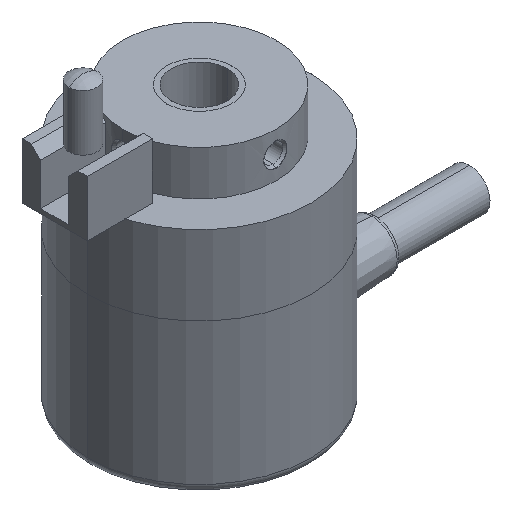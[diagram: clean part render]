
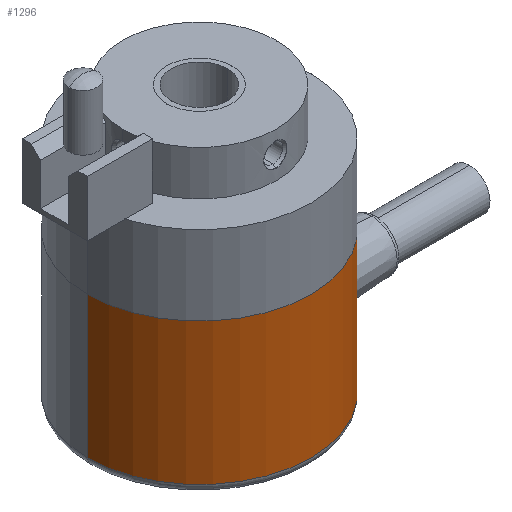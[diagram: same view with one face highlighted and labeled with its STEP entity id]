
A CAD part, isometric view. The second image highlights one B-rep face of the part: STEP entity #1296.
In plain terms, the highlighted cylindrical face has radius 12 mm (diameter 24 mm), a partial arc.
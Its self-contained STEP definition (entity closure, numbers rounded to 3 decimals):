
#12 = DIRECTION ( 'NONE',  ( 0., 0., -1. ) ) ;
#61 = DIRECTION ( 'NONE',  ( 0., 0., 1. ) ) ;
#145 = CARTESIAN_POINT ( 'NONE',  ( 11.895, -1.601, 2.267 ) ) ;
#154 = CARTESIAN_POINT ( 'NONE',  ( 11.455, -3.576, 5.975 ) ) ;
#166 = CARTESIAN_POINT ( 'NONE',  ( 11.993, -0.475, 9.076 ) ) ;
#309 = EDGE_CURVE ( 'NONE', #833, #1049, #478, .T. ) ;
#382 = CARTESIAN_POINT ( 'NONE',  ( 11.799, -2.198, 2.639 ) ) ;
#385 = CARTESIAN_POINT ( 'NONE',  ( 11.504, -3.415, 6.663 ) ) ;
#396 = CARTESIAN_POINT ( 'NONE',  ( 12., 0., 9.1 ) ) ;
#478 = CIRCLE ( 'NONE', #2601, 12. ) ;
#490 = EDGE_CURVE ( 'NONE', #833, #1573, #1691, .T. ) ;
#538 = CARTESIAN_POINT ( 'NONE',  ( 0., 0., 16.2 ) ) ;
#542 = EDGE_LOOP ( 'NONE', ( #2427, #1521, #1414, #2187, #2816, #1769 ) ) ;
#570 = VECTOR ( 'NONE', #2099, 1000. ) ;
#610 = CARTESIAN_POINT ( 'NONE',  ( 11.691, -2.712, 3.12 ) ) ;
#621 = CARTESIAN_POINT ( 'NONE',  ( 11.588, -3.121, 7.309 ) ) ;
#661 = CARTESIAN_POINT ( 'NONE',  ( 12., 0., 16.2 ) ) ;
#781 = DIRECTION ( 'NONE',  ( 1., 0., 0. ) ) ;
#791 = EDGE_CURVE ( 'NONE', #1049, #1472, #1425, .T. ) ;
#833 = VERTEX_POINT ( 'NONE', #2524 ) ;
#847 = CARTESIAN_POINT ( 'NONE',  ( 12., 0., 1.9 ) ) ;
#854 = CARTESIAN_POINT ( 'NONE',  ( 11.587, -3.123, 3.694 ) ) ;
#856 = VECTOR ( 'NONE', #2700, 1000. ) ;
#861 = CARTESIAN_POINT ( 'NONE',  ( 11.691, -2.711, 7.88 ) ) ;
#998 = FACE_OUTER_BOUND ( 'NONE', #542, .T. ) ;
#1049 = VERTEX_POINT ( 'NONE', #2448 ) ;
#1063 = CARTESIAN_POINT ( 'NONE',  ( 12., -0.239, 1.9 ) ) ;
#1073 = CARTESIAN_POINT ( 'NONE',  ( 11.505, -3.414, 4.334 ) ) ;
#1081 = CARTESIAN_POINT ( 'NONE',  ( 11.799, -2.198, 8.361 ) ) ;
#1163 = VECTOR ( 'NONE', #2635, 1000. ) ;
#1291 = CARTESIAN_POINT ( 'NONE',  ( 11.993, -0.474, 1.924 ) ) ;
#1296 = ADVANCED_FACE ( 'NONE', ( #998 ), #1858, .T. ) ;
#1297 = CARTESIAN_POINT ( 'NONE',  ( 11.455, -3.577, 5.027 ) ) ;
#1309 = CARTESIAN_POINT ( 'NONE',  ( 11.895, -1.598, 8.734 ) ) ;
#1414 = ORIENTED_EDGE ( 'NONE', *, *, #490, .T. ) ;
#1425 = LINE ( 'NONE', #661, #1163 ) ;
#1432 = CARTESIAN_POINT ( 'NONE',  ( 0., 0., 1. ) ) ;
#1472 = VERTEX_POINT ( 'NONE', #1751 ) ;
#1500 = CARTESIAN_POINT ( 'NONE',  ( 12., 0., 1. ) ) ;
#1508 = CARTESIAN_POINT ( 'NONE',  ( 11.945, -1.166, 2.086 ) ) ;
#1518 = CARTESIAN_POINT ( 'NONE',  ( 11.447, -3.6, 5.735 ) ) ;
#1521 = ORIENTED_EDGE ( 'NONE', *, *, #309, .F. ) ;
#1524 = CARTESIAN_POINT ( 'NONE',  ( 11.965, -0.94, 8.983 ) ) ;
#1573 = VERTEX_POINT ( 'NONE', #1665 ) ;
#1581 = CARTESIAN_POINT ( 'NONE',  ( -12., 0., 16.2 ) ) ;
#1590 = CARTESIAN_POINT ( 'NONE',  ( 12., 0., 1.9 ) ) ;
#1609 = LINE ( 'NONE', #1779, #856 ) ;
#1644 = DIRECTION ( 'NONE',  ( 1., 0., 0. ) ) ;
#1665 = CARTESIAN_POINT ( 'NONE',  ( -12., 0., 1. ) ) ;
#1691 = LINE ( 'NONE', #1581, #570 ) ;
#1729 = CARTESIAN_POINT ( 'NONE',  ( 11.865, -1.808, 2.378 ) ) ;
#1736 = CARTESIAN_POINT ( 'NONE',  ( 11.483, -3.484, 6.438 ) ) ;
#1747 = CARTESIAN_POINT ( 'NONE',  ( 12., -0.236, 9.1 ) ) ;
#1751 = CARTESIAN_POINT ( 'NONE',  ( 12., 0., 9.1 ) ) ;
#1769 = ORIENTED_EDGE ( 'NONE', *, *, #2770, .T. ) ;
#1779 = CARTESIAN_POINT ( 'NONE',  ( 12., 0., 16.2 ) ) ;
#1786 = VERTEX_POINT ( 'NONE', #1590 ) ;
#1795 = VERTEX_POINT ( 'NONE', #1500 ) ;
#1840 = B_SPLINE_CURVE_WITH_KNOTS ( 'NONE', 3,
 ( #847, #1063, #1291, #2888, #1508, #145, #1729, #382, #1950, #610, #2181, #854, #2422, #1073, #2650, #1297, #2892, #1518, #154, #1736, #385, #1962, #621, #2190, #861, #2433, #1081, #2657, #1309, #2900, #1524, #166, #1747, #396 ),
 .UNSPECIFIED., .F., .F.,
 ( 4, 2, 2, 2, 2, 2, 2, 2, 2, 2, 2, 2, 2, 2, 2, 2, 4 ),
 ( 0., 0.001, 0.001, 0.002, 0.003, 0.004, 0.004, 0.005, 0.006, 0.006, 0.007, 0.008, 0.008, 0.009, 0.01, 0.011, 0.011 ),
 .UNSPECIFIED. ) ;
#1858 = CYLINDRICAL_SURFACE ( 'NONE', #2066, 12. ) ;
#1931 = CIRCLE ( 'NONE', #2104, 12. ) ;
#1950 = CARTESIAN_POINT ( 'NONE',  ( 11.763, -2.382, 2.79 ) ) ;
#1962 = CARTESIAN_POINT ( 'NONE',  ( 11.557, -3.233, 7.1 ) ) ;
#2066 = AXIS2_PLACEMENT_3D ( 'NONE', #2729, #12, #2273 ) ;
#2099 = DIRECTION ( 'NONE',  ( 0., 0., -1. ) ) ;
#2104 = AXIS2_PLACEMENT_3D ( 'NONE', #1432, #61, #1644 ) ;
#2112 = DIRECTION ( 'NONE',  ( 0., 0., 1. ) ) ;
#2181 = CARTESIAN_POINT ( 'NONE',  ( 11.655, -2.86, 3.301 ) ) ;
#2187 = ORIENTED_EDGE ( 'NONE', *, *, #2253, .T. ) ;
#2190 = CARTESIAN_POINT ( 'NONE',  ( 11.655, -2.861, 7.697 ) ) ;
#2253 = EDGE_CURVE ( 'NONE', #1573, #1795, #1931, .T. ) ;
#2273 = DIRECTION ( 'NONE',  ( -1., 0., 0. ) ) ;
#2422 = CARTESIAN_POINT ( 'NONE',  ( 11.556, -3.234, 3.901 ) ) ;
#2427 = ORIENTED_EDGE ( 'NONE', *, *, #791, .F. ) ;
#2433 = CARTESIAN_POINT ( 'NONE',  ( 11.763, -2.379, 8.212 ) ) ;
#2448 = CARTESIAN_POINT ( 'NONE',  ( 12., 0., 16.2 ) ) ;
#2524 = CARTESIAN_POINT ( 'NONE',  ( -12., 0., 16.2 ) ) ;
#2540 = EDGE_CURVE ( 'NONE', #1786, #1795, #1609, .T. ) ;
#2601 = AXIS2_PLACEMENT_3D ( 'NONE', #538, #2112, #781 ) ;
#2635 = DIRECTION ( 'NONE',  ( 0., 0., -1. ) ) ;
#2650 = CARTESIAN_POINT ( 'NONE',  ( 11.483, -3.484, 4.562 ) ) ;
#2657 = CARTESIAN_POINT ( 'NONE',  ( 11.864, -1.809, 8.621 ) ) ;
#2700 = DIRECTION ( 'NONE',  ( 0., 0., -1. ) ) ;
#2729 = CARTESIAN_POINT ( 'NONE',  ( 0., 0., 16.2 ) ) ;
#2770 = EDGE_CURVE ( 'NONE', #1786, #1472, #1840, .T. ) ;
#2816 = ORIENTED_EDGE ( 'NONE', *, *, #2540, .F. ) ;
#2888 = CARTESIAN_POINT ( 'NONE',  ( 11.966, -0.936, 2.016 ) ) ;
#2892 = CARTESIAN_POINT ( 'NONE',  ( 11.447, -3.6, 5.262 ) ) ;
#2900 = CARTESIAN_POINT ( 'NONE',  ( 11.945, -1.164, 8.915 ) ) ;
